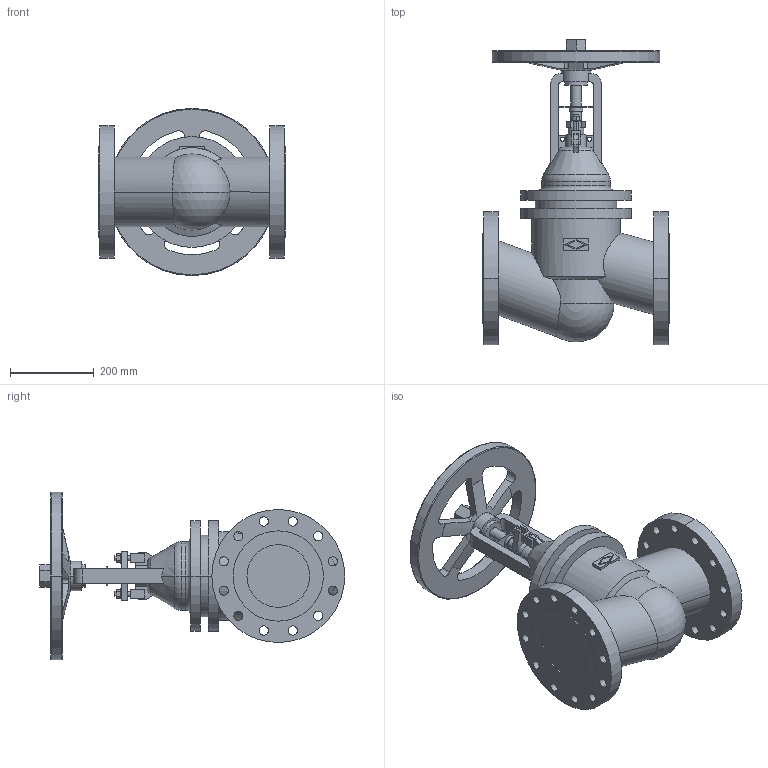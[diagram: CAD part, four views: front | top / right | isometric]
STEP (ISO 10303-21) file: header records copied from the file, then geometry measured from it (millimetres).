
FILE_DESCRIPTION(('OneSpaceDesigner STEP Export'),'2;1');
FILE_NAME('c000004201.stp','2010-04-30T 8:38:04',(''),(''),'OneSpace Designer STEP processor for AP214 (Solid Model)','OneSpace Modeling 15.50B 03-Nov-2007 (C) CoCreate Software GmbH','');
FILE_SCHEMA(('AUTOMOTIVE_DESIGN { 1 0 10303 214 1 1 1 1 }'));
Length unit declared in the file: millimetre
Products named in the file (1): 1
Bounding box: 445 x 730.8 x 400 mm (x, y, z)
Volume: 25641910.8 mm3; surface area: 1189476.5 mm2
Topology: 1 solids, 1 shells, 329 faces, 906 edges, 597 vertices
Faces by surface type: cylinder 152, plane 146, torus 19, cone 10, sphere 2
Entity records: 13135 total; most frequent: CARTESIAN_POINT 2573, ORIENTED_EDGE 1808, DIRECTION 1449, EDGE_CURVE 904, VERTEX_POINT 597, AXIS2_PLACEMENT_3D 503, VECTOR 443, LINE 443
